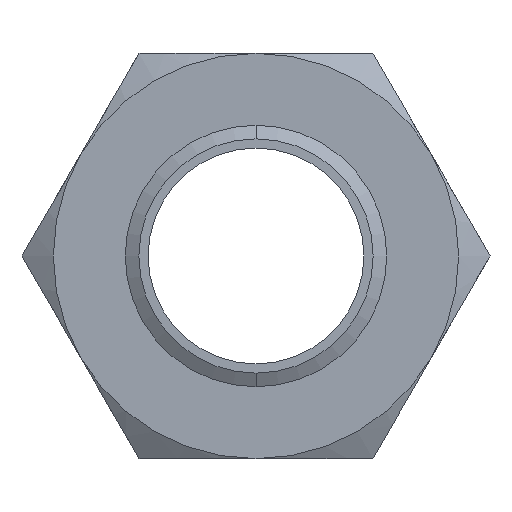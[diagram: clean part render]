
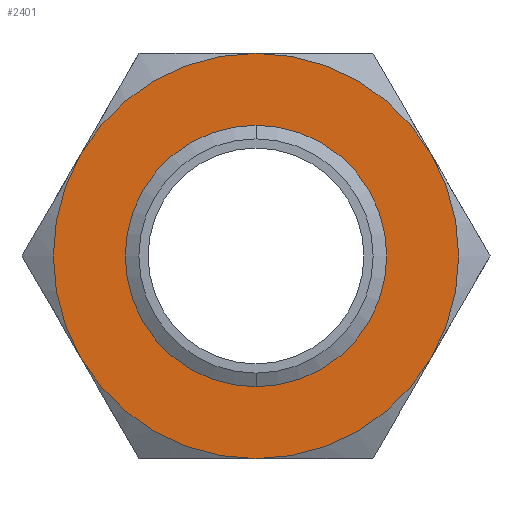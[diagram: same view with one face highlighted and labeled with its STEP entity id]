
A CAD part, front view. The second image highlights one B-rep face of the part: STEP entity #2401.
In plain terms, the highlighted planar face has unit normal (0, -1, 0).
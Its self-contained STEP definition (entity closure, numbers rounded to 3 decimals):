
#121 = EDGE_CURVE ( 'NONE', #122, #131, #608, .T. ) ;
#122 = VERTEX_POINT ( 'NONE', #600 ) ;
#131 = VERTEX_POINT ( 'NONE', #584 ) ;
#584 = CARTESIAN_POINT ( 'NONE',  ( 0., 0., 44.804 ) ) ;
#600 = CARTESIAN_POINT ( 'NONE',  ( 0., 0., -44.804 ) ) ;
#601 = DIRECTION ( 'NONE',  ( 0., 0., -1. ) ) ;
#602 = DIRECTION ( 'NONE',  ( 0., -1., 0. ) ) ;
#603 = CARTESIAN_POINT ( 'NONE',  ( 0., 0., 0. ) ) ;
#604 = AXIS2_PLACEMENT_3D ( 'NONE', #603, #602, #601 ) ;
#608 = CIRCLE ( 'NONE', #604, 44.804 ) ;
#1049 = DIRECTION ( 'NONE',  ( 0., 0., 1. ) ) ;
#1050 = DIRECTION ( 'NONE',  ( 0., 1., 0. ) ) ;
#1051 = CARTESIAN_POINT ( 'NONE',  ( 0., 0., 0. ) ) ;
#1052 = AXIS2_PLACEMENT_3D ( 'NONE', #1051, #1050, #1049 ) ;
#1053 = CIRCLE ( 'NONE', #1052, 77.5 ) ;
#1088 = CARTESIAN_POINT ( 'NONE',  ( 0., 0., -77.5 ) ) ;
#1089 = DIRECTION ( 'NONE',  ( 0., 0., 1. ) ) ;
#1090 = DIRECTION ( 'NONE',  ( 0., 1., 0. ) ) ;
#1091 = CARTESIAN_POINT ( 'NONE',  ( 0., 0., 0. ) ) ;
#1092 = AXIS2_PLACEMENT_3D ( 'NONE', #1091, #1090, #1089 ) ;
#1093 = CIRCLE ( 'NONE', #1092, 77.5 ) ;
#1094 = CARTESIAN_POINT ( 'NONE',  ( 67.117, 0., -38.75 ) ) ;
#1095 = CARTESIAN_POINT ( 'NONE',  ( -67.117, 0., -38.75 ) ) ;
#1096 = CARTESIAN_POINT ( 'NONE',  ( -67.117, 0., 38.75 ) ) ;
#1097 = CARTESIAN_POINT ( 'NONE',  ( 0., 0., 77.5 ) ) ;
#1098 = DIRECTION ( 'NONE',  ( 0., 0., 1. ) ) ;
#1099 = DIRECTION ( 'NONE',  ( 0., 1., 0. ) ) ;
#1100 = CARTESIAN_POINT ( 'NONE',  ( 0., 0., 0. ) ) ;
#1101 = AXIS2_PLACEMENT_3D ( 'NONE', #1100, #1099, #1098 ) ;
#1102 = CIRCLE ( 'NONE', #1101, 77.5 ) ;
#1103 = CARTESIAN_POINT ( 'NONE',  ( 67.117, 0., 38.75 ) ) ;
#1104 = DIRECTION ( 'NONE',  ( 0., 0., 1. ) ) ;
#1105 = DIRECTION ( 'NONE',  ( 0., 1., 0. ) ) ;
#1106 = CARTESIAN_POINT ( 'NONE',  ( 0., 0., 0. ) ) ;
#1107 = AXIS2_PLACEMENT_3D ( 'NONE', #1106, #1105, #1104 ) ;
#1108 = CIRCLE ( 'NONE', #1107, 77.5 ) ;
#1127 = DIRECTION ( 'NONE',  ( 0., 0., 1. ) ) ;
#1128 = DIRECTION ( 'NONE',  ( 0., 1., 0. ) ) ;
#1129 = CARTESIAN_POINT ( 'NONE',  ( 0., 0., 0. ) ) ;
#1130 = AXIS2_PLACEMENT_3D ( 'NONE', #1129, #1128, #1127 ) ;
#1131 = CIRCLE ( 'NONE', #1130, 77.5 ) ;
#1132 = DIRECTION ( 'NONE',  ( 0., 0., 1. ) ) ;
#1133 = DIRECTION ( 'NONE',  ( 0., 1., 0. ) ) ;
#1134 = CARTESIAN_POINT ( 'NONE',  ( 0., 0., 0. ) ) ;
#1135 = AXIS2_PLACEMENT_3D ( 'NONE', #1134, #1133, #1132 ) ;
#1136 = CIRCLE ( 'NONE', #1135, 77.5 ) ;
#1146 = DIRECTION ( 'NONE',  ( 0., 0., -1. ) ) ;
#1147 = DIRECTION ( 'NONE',  ( 0., -1., 0. ) ) ;
#1148 = CARTESIAN_POINT ( 'NONE',  ( 0., 0., 0. ) ) ;
#1149 = AXIS2_PLACEMENT_3D ( 'NONE', #1148, #1147, #1146 ) ;
#1150 = CIRCLE ( 'NONE', #1149, 44.804 ) ;
#1754 = DIRECTION ( 'NONE',  ( 0., 0., 1. ) ) ;
#1755 = DIRECTION ( 'NONE',  ( 0., 1., 0. ) ) ;
#1756 = CARTESIAN_POINT ( 'NONE',  ( 44.745, 0., -77.5 ) ) ;
#1758 = AXIS2_PLACEMENT_3D ( 'NONE', #1756, #1755, #1754 ) ;
#1759 = PLANE ( 'NONE',  #1758 ) ;
#1760 = FACE_BOUND ( 'NONE', #2093, .T. ) ;
#1761 = FACE_OUTER_BOUND ( 'NONE', #2399, .T. ) ;
#2036 = ORIENTED_EDGE ( 'NONE', *, *, #121, .F. ) ;
#2084 = ORIENTED_EDGE ( 'NONE', *, *, #2088, .F. ) ;
#2085 = ORIENTED_EDGE ( 'NONE', *, *, #2086, .F. ) ;
#2086 = EDGE_CURVE ( 'NONE', #2094, #2091, #1053, .T. ) ;
#2087 = ORIENTED_EDGE ( 'NONE', *, *, #2090, .F. ) ;
#2088 = EDGE_CURVE ( 'NONE', #2091, #2089, #1108, .T. ) ;
#2089 = VERTEX_POINT ( 'NONE', #1103 ) ;
#2090 = EDGE_CURVE ( 'NONE', #2096, #2094, #1102, .T. ) ;
#2091 = VERTEX_POINT ( 'NONE', #1097 ) ;
#2092 = ORIENTED_EDGE ( 'NONE', *, *, #2105, .F. ) ;
#2093 = EDGE_LOOP ( 'NONE', ( #2036, #2132 ) ) ;
#2094 = VERTEX_POINT ( 'NONE', #1096 ) ;
#2095 = ORIENTED_EDGE ( 'NONE', *, *, #2098, .F. ) ;
#2096 = VERTEX_POINT ( 'NONE', #1095 ) ;
#2097 = VERTEX_POINT ( 'NONE', #1094 ) ;
#2098 = EDGE_CURVE ( 'NONE', #2089, #2097, #1093, .T. ) ;
#2100 = VERTEX_POINT ( 'NONE', #1088 ) ;
#2101 = ORIENTED_EDGE ( 'NONE', *, *, #2107, .F. ) ;
#2105 = EDGE_CURVE ( 'NONE', #2100, #2096, #1136, .T. ) ;
#2107 = EDGE_CURVE ( 'NONE', #2097, #2100, #1131, .T. ) ;
#2132 = ORIENTED_EDGE ( 'NONE', *, *, #2136, .F. ) ;
#2136 = EDGE_CURVE ( 'NONE', #131, #122, #1150, .T. ) ;
#2399 = EDGE_LOOP ( 'NONE', ( #2084, #2085, #2087, #2092, #2101, #2095 ) ) ;
#2401 = ADVANCED_FACE ( 'NONE', ( #1761, #1760 ), #1759, .F. ) ;
